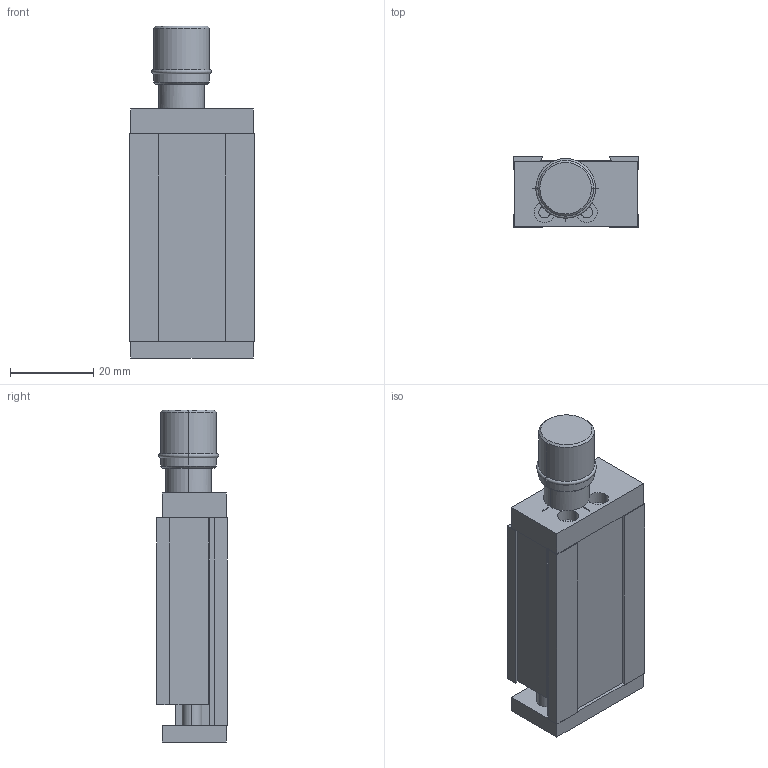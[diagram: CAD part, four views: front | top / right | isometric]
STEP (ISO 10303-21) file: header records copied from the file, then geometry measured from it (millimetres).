
FILE_DESCRIPTION (( 'STEP AP203' ), '1' );
FILE_NAME ('domiLINE 30.STEP', '2002-07-08T12:29:16', ( '' ), ( '' ), 'SwSTEP 2.0', 'SolidWorks 2002127', '' );
FILE_SCHEMA (( 'CONFIG_CONTROL_DESIGN' ));
Length unit declared in the file: millimetre
Products named in the file (3): domiLINE 30; Aussen 30 lght-+-D007617_ _Standard; Innenteil 30-+-D007616_ _L=50
Assembly tree (2 placements, depth 2):
  domiLINE 30
    Aussen 30 lght-+-D007617_ _Standard
    Innenteil 30-+-D007616_ _L=50
Bounding box: 30 x 17 x 80 mm (x, y, z)
Volume: 26342.1 mm3; surface area: 16604 mm2
Topology: 2 solids, 3 shells, 159 faces, 382 edges, 248 vertices
Faces by surface type: plane 105, cylinder 48, cone 4, torus 2
Entity records: 4913 total; most frequent: DIRECTION 820, CARTESIAN_POINT 794, ORIENTED_EDGE 764, EDGE_CURVE 382, AXIS2_PLACEMENT_3D 274, LINE 272, VECTOR 272, VERTEX_POINT 248
